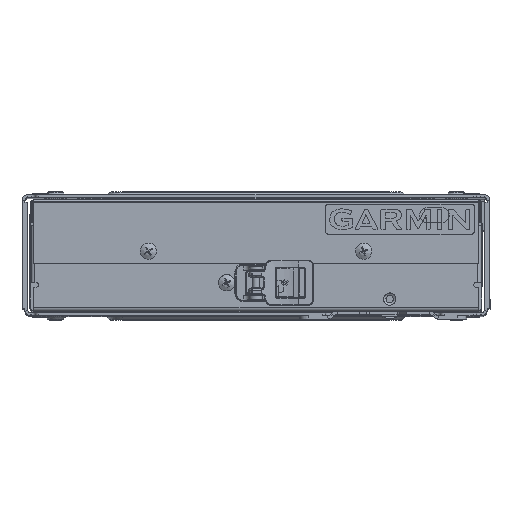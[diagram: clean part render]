
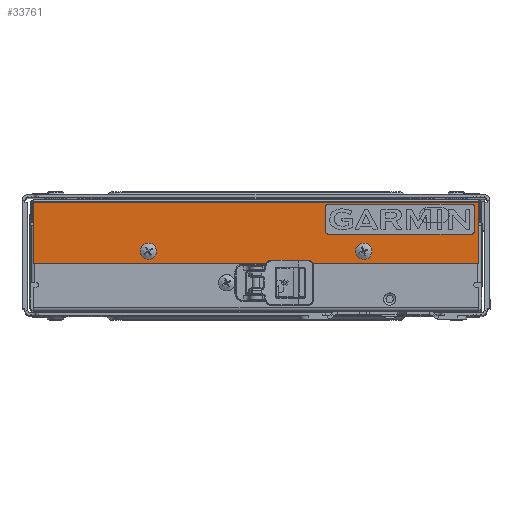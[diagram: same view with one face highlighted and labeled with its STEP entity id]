
A CAD part, top view. The second image highlights one B-rep face of the part: STEP entity #33761.
In plain terms, the highlighted planar face has unit normal (0, 0, 1).
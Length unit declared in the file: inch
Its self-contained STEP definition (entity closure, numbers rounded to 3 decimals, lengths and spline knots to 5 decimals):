
#207 = ORIENTED_EDGE ( 'NONE', *, *, #107249, .F. ) ;
#555 = CIRCLE ( 'NONE', #88013, 0.03 ) ;
#865 = VERTEX_POINT ( 'NONE', #71769 ) ;
#1199 = ORIENTED_EDGE ( 'NONE', *, *, #120414, .F. ) ;
#1801 = VECTOR ( 'NONE', #91504, 39.37008 ) ;
#3761 = VERTEX_POINT ( 'NONE', #137398 ) ;
#4330 = EDGE_CURVE ( 'NONE', #3761, #59481, #15642, .T. ) ;
#5140 = CIRCLE ( 'NONE', #91573, 0.03 ) ;
#5339 = DIRECTION ( 'NONE',  ( 1., 0., 0. ) ) ;
#5780 = CARTESIAN_POINT ( 'NONE',  ( 2.93802, 1.43994, 4.3485 ) ) ;
#9463 = VERTEX_POINT ( 'NONE', #80220 ) ;
#9699 = FACE_OUTER_BOUND ( 'NONE', #107259, .T. ) ;
#11796 = EDGE_CURVE ( 'NONE', #91446, #91446, #80278, .T. ) ;
#12074 = EDGE_CURVE ( 'NONE', #59481, #94563, #63492, .T. ) ;
#14554 = VECTOR ( 'NONE', #15686, 39.37008 ) ;
#14767 = CARTESIAN_POINT ( 'NONE',  ( 0.96802, 1.46994, 4.3485 ) ) ;
#15642 = LINE ( 'NONE', #42312, #101552 ) ;
#15686 = DIRECTION ( 'NONE',  ( 0., 1., 0. ) ) ;
#17595 = LINE ( 'NONE', #55169, #74922 ) ;
#23638 = EDGE_CURVE ( 'NONE', #3761, #9463, #72961, .T. ) ;
#24158 = DIRECTION ( 'NONE',  ( 1., 0., 0. ) ) ;
#25522 = VERTEX_POINT ( 'NONE', #51536 ) ;
#25827 = EDGE_CURVE ( 'NONE', #123277, #123277, #127875, .T. ) ;
#25849 = VECTOR ( 'NONE', #66709, 39.37008 ) ;
#26604 = ORIENTED_EDGE ( 'NONE', *, *, #101849, .F. ) ;
#28096 = VECTOR ( 'NONE', #24158, 39.37008 ) ;
#28518 = VERTEX_POINT ( 'NONE', #90485 ) ;
#30221 = DIRECTION ( 'NONE',  ( 0., 0., -1. ) ) ;
#31009 = DIRECTION ( 'NONE',  ( 0., 0., -1. ) ) ;
#32111 = EDGE_LOOP ( 'NONE', ( #121084 ) ) ;
#32979 = AXIS2_PLACEMENT_3D ( 'NONE', #108923, #44638, #119756 ) ;
#33216 = CARTESIAN_POINT ( 'NONE',  ( 0.93802, 1.09994, 4.3485 ) ) ;
#33761 = ADVANCED_FACE ( 'NONE', ( #9699, #38553, #41963, #120903 ), #127117, .F. ) ;
#35961 = ORIENTED_EDGE ( 'NONE', *, *, #23638, .F. ) ;
#38553 = FACE_BOUND ( 'NONE', #102461, .T. ) ;
#40653 = CARTESIAN_POINT ( 'NONE',  ( 0.96802, 1.09994, 4.3485 ) ) ;
#41963 = FACE_BOUND ( 'NONE', #32111, .T. ) ;
#42312 = CARTESIAN_POINT ( 'NONE',  ( -2.99692, 0.679, 4.3485 ) ) ;
#42691 = EDGE_CURVE ( 'NONE', #104392, #118344, #56248, .T. ) ;
#44588 = VERTEX_POINT ( 'NONE', #72771 ) ;
#44638 = DIRECTION ( 'NONE',  ( 0., 0., 1. ) ) ;
#45387 = CARTESIAN_POINT ( 'NONE',  ( 2.99708, 0.679, 4.3485 ) ) ;
#51502 = DIRECTION ( 'NONE',  ( 1., 0., 0. ) ) ;
#51536 = CARTESIAN_POINT ( 'NONE',  ( 2.93802, 1.09994, 4.3485 ) ) ;
#53645 = ORIENTED_EDGE ( 'NONE', *, *, #139679, .F. ) ;
#54630 = ORIENTED_EDGE ( 'NONE', *, *, #4330, .T. ) ;
#55169 = CARTESIAN_POINT ( 'NONE',  ( 0.93802, 1.43994, 4.3485 ) ) ;
#56248 = LINE ( 'NONE', #62670, #59645 ) ;
#57317 = CARTESIAN_POINT ( 'NONE',  ( 2.90802, 1.46994, 4.3485 ) ) ;
#57509 = CARTESIAN_POINT ( 'NONE',  ( -1.50912, 0.93112, 4.3485 ) ) ;
#59348 = LINE ( 'NONE', #5780, #1801 ) ;
#59481 = VERTEX_POINT ( 'NONE', #81391 ) ;
#59645 = VECTOR ( 'NONE', #137777, 39.37008 ) ;
#61486 = DIRECTION ( 'NONE',  ( 0., 0., 1. ) ) ;
#61875 = LINE ( 'NONE', #91020, #14554 ) ;
#62670 = CARTESIAN_POINT ( 'NONE',  ( 0.96802, 1.06994, 4.3485 ) ) ;
#62910 = DIRECTION ( 'NONE',  ( 0., 0., -1. ) ) ;
#63119 = ORIENTED_EDGE ( 'NONE', *, *, #99043, .F. ) ;
#63492 = LINE ( 'NONE', #45387, #28096 ) ;
#66709 = DIRECTION ( 'NONE',  ( 1., 0., 0. ) ) ;
#69997 = DIRECTION ( 'NONE',  ( 0., 0., 1. ) ) ;
#71769 = CARTESIAN_POINT ( 'NONE',  ( 0.96802, 1.46994, 4.3485 ) ) ;
#72231 = ORIENTED_EDGE ( 'NONE', *, *, #25827, .T. ) ;
#72771 = CARTESIAN_POINT ( 'NONE',  ( 0.93802, 1.43994, 4.3485 ) ) ;
#72961 = LINE ( 'NONE', #98517, #25849 ) ;
#74922 = VECTOR ( 'NONE', #119498, 39.37008 ) ;
#79781 = DIRECTION ( 'NONE',  ( -1., 0., 0. ) ) ;
#80220 = CARTESIAN_POINT ( 'NONE',  ( 2.99708, 1.501, 4.3485 ) ) ;
#80278 = CIRCLE ( 'NONE', #87509, 0.1095 ) ;
#81391 = CARTESIAN_POINT ( 'NONE',  ( -2.99692, 0.679, 4.3485 ) ) ;
#81619 = CARTESIAN_POINT ( 'NONE',  ( 0.96802, 1.06994, 4.3485 ) ) ;
#87509 = AXIS2_PLACEMENT_3D ( 'NONE', #95310, #31009, #106115 ) ;
#88013 = AXIS2_PLACEMENT_3D ( 'NONE', #40653, #115751, #51502 ) ;
#90485 = CARTESIAN_POINT ( 'NONE',  ( 2.93802, 1.43994, 4.3485 ) ) ;
#91020 = CARTESIAN_POINT ( 'NONE',  ( 2.99708, 1.509, 4.3485 ) ) ;
#91446 = VERTEX_POINT ( 'NONE', #57509 ) ;
#91504 = DIRECTION ( 'NONE',  ( 0., 1., 0. ) ) ;
#91573 = AXIS2_PLACEMENT_3D ( 'NONE', #134305, #69997, #5339 ) ;
#93806 = ORIENTED_EDGE ( 'NONE', *, *, #94939, .F. ) ;
#94523 = CARTESIAN_POINT ( 'NONE',  ( 1.45008, 0.839, 4.3485 ) ) ;
#94563 = VERTEX_POINT ( 'NONE', #99392 ) ;
#94939 = EDGE_CURVE ( 'NONE', #44588, #110616, #17595, .T. ) ;
#95255 = VECTOR ( 'NONE', #79781, 39.37008 ) ;
#95310 = CARTESIAN_POINT ( 'NONE',  ( -1.44992, 0.839, 4.3485 ) ) ;
#98517 = CARTESIAN_POINT ( 'NONE',  ( 0.00008, 1.501, 4.3485 ) ) ;
#99043 = EDGE_CURVE ( 'NONE', #865, #44588, #5140, .T. ) ;
#99392 = CARTESIAN_POINT ( 'NONE',  ( 2.99708, 0.679, 4.3485 ) ) ;
#99861 = ORIENTED_EDGE ( 'NONE', *, *, #12074, .T. ) ;
#101225 = ORIENTED_EDGE ( 'NONE', *, *, #111149, .T. ) ;
#101552 = VECTOR ( 'NONE', #117413, 39.37008 ) ;
#101821 = VERTEX_POINT ( 'NONE', #57317 ) ;
#101849 = EDGE_CURVE ( 'NONE', #101821, #865, #102009, .T. ) ;
#102009 = LINE ( 'NONE', #14767, #95255 ) ;
#102461 = EDGE_LOOP ( 'NONE', ( #72231 ) ) ;
#104392 = VERTEX_POINT ( 'NONE', #81619 ) ;
#105323 = DIRECTION ( 'NONE',  ( -0.924, -0.383, 0. ) ) ;
#105516 = CARTESIAN_POINT ( 'NONE',  ( 0.00008, 1.529, 4.3485 ) ) ;
#106115 = DIRECTION ( 'NONE',  ( -0.541, 0.841, 0. ) ) ;
#107249 = EDGE_CURVE ( 'NONE', #118344, #25522, #119725, .T. ) ;
#107259 = EDGE_LOOP ( 'NONE', ( #35961, #54630, #99861, #101225 ) ) ;
#107653 = AXIS2_PLACEMENT_3D ( 'NONE', #94523, #30221, #105323 ) ;
#108923 = CARTESIAN_POINT ( 'NONE',  ( 2.90802, 1.09994, 4.3485 ) ) ;
#109021 = CIRCLE ( 'NONE', #111626, 0.03 ) ;
#110616 = VERTEX_POINT ( 'NONE', #33216 ) ;
#111149 = EDGE_CURVE ( 'NONE', #94563, #9463, #61875, .T. ) ;
#111626 = AXIS2_PLACEMENT_3D ( 'NONE', #125717, #61486, #136609 ) ;
#114790 = CARTESIAN_POINT ( 'NONE',  ( 2.90802, 1.06994, 4.3485 ) ) ;
#115365 = EDGE_LOOP ( 'NONE', ( #122150, #53645, #93806, #63119, #26604, #1199, #132357, #207 ) ) ;
#115751 = DIRECTION ( 'NONE',  ( 0., 0., 1. ) ) ;
#117413 = DIRECTION ( 'NONE',  ( 0., -1., 0. ) ) ;
#118344 = VERTEX_POINT ( 'NONE', #114790 ) ;
#119498 = DIRECTION ( 'NONE',  ( 0., -1., 0. ) ) ;
#119725 = CIRCLE ( 'NONE', #32979, 0.03 ) ;
#119756 = DIRECTION ( 'NONE',  ( -1., 0., 0. ) ) ;
#120414 = EDGE_CURVE ( 'NONE', #28518, #101821, #109021, .T. ) ;
#120903 = FACE_BOUND ( 'NONE', #115365, .T. ) ;
#121084 = ORIENTED_EDGE ( 'NONE', *, *, #11796, .T. ) ;
#122150 = ORIENTED_EDGE ( 'NONE', *, *, #42691, .F. ) ;
#123277 = VERTEX_POINT ( 'NONE', #124544 ) ;
#124544 = CARTESIAN_POINT ( 'NONE',  ( 1.34893, 0.79706, 4.3485 ) ) ;
#125717 = CARTESIAN_POINT ( 'NONE',  ( 2.90802, 1.43994, 4.3485 ) ) ;
#127117 = PLANE ( 'NONE',  #131782 ) ;
#127875 = CIRCLE ( 'NONE', #107653, 0.1095 ) ;
#130043 = EDGE_CURVE ( 'NONE', #25522, #28518, #59348, .T. ) ;
#131782 = AXIS2_PLACEMENT_3D ( 'NONE', #105516, #62910, #138022 ) ;
#132357 = ORIENTED_EDGE ( 'NONE', *, *, #130043, .F. ) ;
#134305 = CARTESIAN_POINT ( 'NONE',  ( 0.96802, 1.43994, 4.3485 ) ) ;
#136609 = DIRECTION ( 'NONE',  ( 1., 0., 0. ) ) ;
#137398 = CARTESIAN_POINT ( 'NONE',  ( -2.99692, 1.501, 4.3485 ) ) ;
#137777 = DIRECTION ( 'NONE',  ( 1., 0., 0. ) ) ;
#138022 = DIRECTION ( 'NONE',  ( 0., -1., 0. ) ) ;
#139679 = EDGE_CURVE ( 'NONE', #110616, #104392, #555, .T. ) ;
